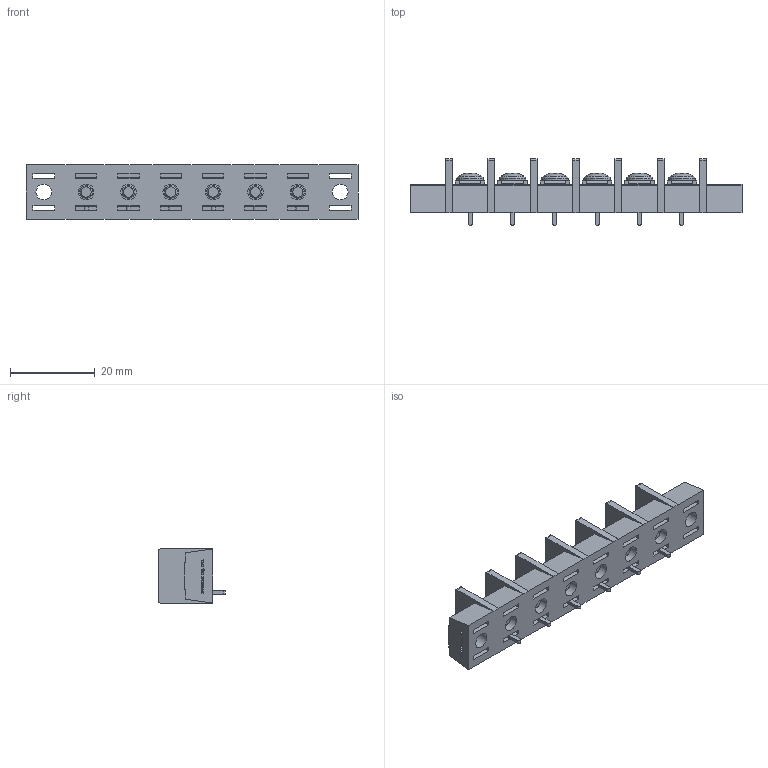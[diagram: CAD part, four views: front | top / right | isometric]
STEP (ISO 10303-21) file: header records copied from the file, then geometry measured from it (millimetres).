
FILE_DESCRIPTION(/* description */ ('Alibre Inc.'),/* implementation_level */ '2;1');
FILE_NAME(/* name */ 'export0',/* time_stamp */ '2015-10-22T19:50:25+09:00',/* author */ (''),/* organization */ (''),/* preprocessor_version */ 'ST-DEVELOPER v14',/* originating_system */ 'Alibre',/* authorisation */ '');
FILE_SCHEMA (('CONFIG_CONTROL_DESIGN'));
Length unit declared in the file: centimetre
Products named in the file (1): ID_1
Bounding box: 78.4 x 15.8 x 12.8 mm (x, y, z)
Volume: 6724.9 mm3; surface area: 7718.3 mm2
Topology: 1 solids, 103 shells, 2098 faces, 5404 edges, 3578 vertices
Faces by surface type: plane 1568, bspline 416, cylinder 66, cone 30, torus 12, sphere 6
Full cylindrical faces by diameter (mm): 3 x12, 3.7 x8, 4.6 x8, 6.3 x6
Entity records: 60877 total; most frequent: CARTESIAN_POINT 14753, ORIENTED_EDGE 10664, DIRECTION 6354, EDGE_CURVE 5332, VECTOR 4120, LINE 4120, VERTEX_POINT 3558, EDGE_LOOP 2312
